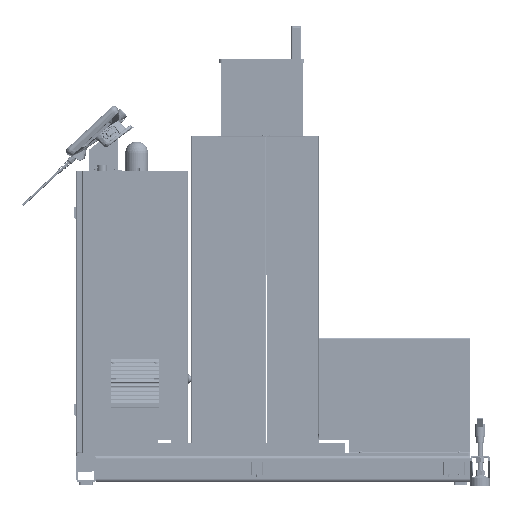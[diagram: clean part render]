
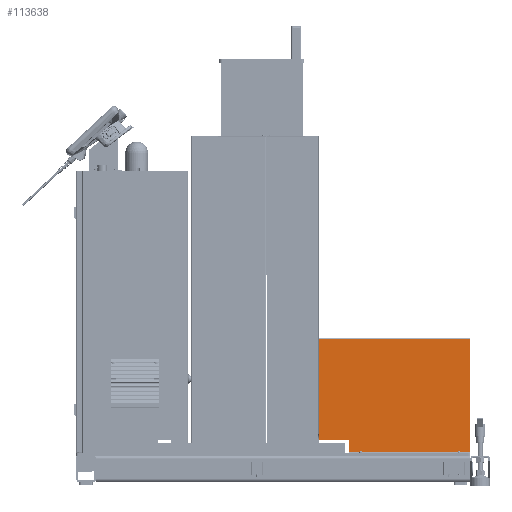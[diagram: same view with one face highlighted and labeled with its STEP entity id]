
A CAD part, top view. The second image highlights one B-rep face of the part: STEP entity #113638.
In plain terms, the highlighted planar face has unit normal (0, 0, 1).
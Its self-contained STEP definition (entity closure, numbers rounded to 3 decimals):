
#5738 = EDGE_CURVE ( 'NONE', #229258, #232732, #422744, .T. ) ;
#17859 = CARTESIAN_POINT ( 'NONE',  ( 600., 8., 200. ) ) ;
#31729 = AXIS2_PLACEMENT_3D ( 'NONE', #271367, #269281, #606156 ) ;
#44564 = LINE ( 'NONE', #422486, #441414 ) ;
#58895 = FACE_OUTER_BOUND ( 'NONE', #531206, .T. ) ;
#61494 = EDGE_CURVE ( 'NONE', #524125, #107702, #564577, .T. ) ;
#68665 = CARTESIAN_POINT ( 'NONE',  ( 140., 48., 200. ) ) ;
#93965 = VERTEX_POINT ( 'NONE', #343878 ) ;
#107702 = VERTEX_POINT ( 'NONE', #444001 ) ;
#111830 = DIRECTION ( 'NONE',  ( 0., -1., 0. ) ) ;
#113638 = ADVANCED_FACE ( 'NONE', ( #58895 ), #181279, .T. ) ;
#127459 = DIRECTION ( 'NONE',  ( 0., 1., 0. ) ) ;
#131875 = ORIENTED_EDGE ( 'NONE', *, *, #292177, .T. ) ;
#150208 = DIRECTION ( 'NONE',  ( 0., 0., -1. ) ) ;
#154655 = EDGE_CURVE ( 'NONE', #202586, #524125, #207350, .T. ) ;
#157509 = LINE ( 'NONE', #566034, #569616 ) ;
#166207 = ORIENTED_EDGE ( 'NONE', *, *, #5738, .F. ) ;
#170901 = ORIENTED_EDGE ( 'NONE', *, *, #154655, .F. ) ;
#173944 = ORIENTED_EDGE ( 'NONE', *, *, #519625, .F. ) ;
#176108 = DIRECTION ( 'NONE',  ( -1., 0., 0. ) ) ;
#180680 = CIRCLE ( 'NONE', #584238, 5. ) ;
#181279 = PLANE ( 'NONE',  #31729 ) ;
#202586 = VERTEX_POINT ( 'NONE', #495703 ) ;
#207010 = EDGE_CURVE ( 'NONE', #202586, #93965, #180680, .T. ) ;
#207350 = LINE ( 'NONE', #609289, #402022 ) ;
#212643 = VECTOR ( 'NONE', #428482, 1000. ) ;
#229258 = VERTEX_POINT ( 'NONE', #604838 ) ;
#232732 = VERTEX_POINT ( 'NONE', #424806 ) ;
#269281 = DIRECTION ( 'NONE',  ( 0., 0., 1. ) ) ;
#271367 = CARTESIAN_POINT ( 'NONE',  ( 370., 358., 200. ) ) ;
#292177 = EDGE_CURVE ( 'NONE', #229258, #107702, #500368, .T. ) ;
#337896 = CARTESIAN_POINT ( 'NONE',  ( 370., 355.8, 200. ) ) ;
#343878 = CARTESIAN_POINT ( 'NONE',  ( 232., 43., 200. ) ) ;
#362743 = VECTOR ( 'NONE', #111830, 1000. ) ;
#371817 = EDGE_CURVE ( 'NONE', #399346, #93965, #44564, .T. ) ;
#372993 = VECTOR ( 'NONE', #379734, 1000. ) ;
#379734 = DIRECTION ( 'NONE',  ( -1., 0., 0. ) ) ;
#386069 = DIRECTION ( 'NONE',  ( -1., 0., 0. ) ) ;
#398268 = CARTESIAN_POINT ( 'NONE',  ( 232., 10.2, 200. ) ) ;
#399346 = VERTEX_POINT ( 'NONE', #398268 ) ;
#402017 = ORIENTED_EDGE ( 'NONE', *, *, #207010, .T. ) ;
#402022 = VECTOR ( 'NONE', #176108, 1000. ) ;
#422486 = CARTESIAN_POINT ( 'NONE',  ( 232., 358., 200. ) ) ;
#422744 = LINE ( 'NONE', #17859, #362743 ) ;
#424806 = CARTESIAN_POINT ( 'NONE',  ( 600., 10.2, 200. ) ) ;
#428482 = DIRECTION ( 'NONE',  ( 0., 1., 0. ) ) ;
#434971 = DIRECTION ( 'NONE',  ( 0., -1., 0. ) ) ;
#441133 = CARTESIAN_POINT ( 'NONE',  ( 227., 43., 200. ) ) ;
#441414 = VECTOR ( 'NONE', #127459, 1000. ) ;
#444001 = CARTESIAN_POINT ( 'NONE',  ( 140., 355.8, 200. ) ) ;
#469987 = ORIENTED_EDGE ( 'NONE', *, *, #61494, .F. ) ;
#488108 = ORIENTED_EDGE ( 'NONE', *, *, #371817, .F. ) ;
#495703 = CARTESIAN_POINT ( 'NONE',  ( 227., 48., 200. ) ) ;
#500368 = LINE ( 'NONE', #337896, #372993 ) ;
#519625 = EDGE_CURVE ( 'NONE', #232732, #399346, #157509, .T. ) ;
#524125 = VERTEX_POINT ( 'NONE', #68665 ) ;
#531206 = EDGE_LOOP ( 'NONE', ( #488108, #173944, #166207, #131875, #469987, #170901, #402017 ) ) ;
#564577 = LINE ( 'NONE', #618927, #212643 ) ;
#566034 = CARTESIAN_POINT ( 'NONE',  ( 600., 10.2, 200. ) ) ;
#569616 = VECTOR ( 'NONE', #386069, 1000. ) ;
#584238 = AXIS2_PLACEMENT_3D ( 'NONE', #441133, #150208, #434971 ) ;
#604838 = CARTESIAN_POINT ( 'NONE',  ( 600., 355.8, 200. ) ) ;
#606156 = DIRECTION ( 'NONE',  ( 1., 0., 0. ) ) ;
#609289 = CARTESIAN_POINT ( 'NONE',  ( 370., 48., 200. ) ) ;
#618927 = CARTESIAN_POINT ( 'NONE',  ( 140., 356.8, 200. ) ) ;
